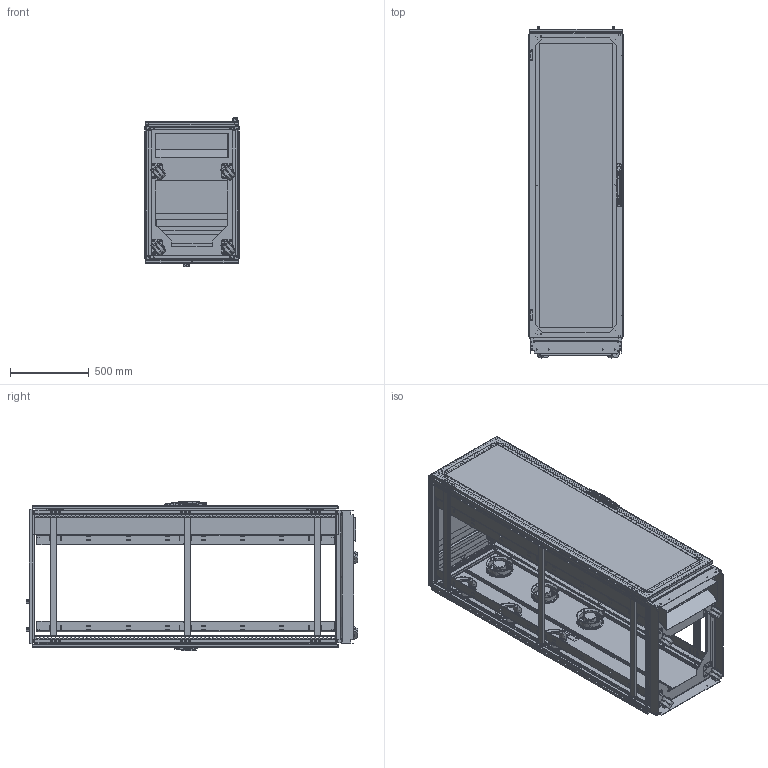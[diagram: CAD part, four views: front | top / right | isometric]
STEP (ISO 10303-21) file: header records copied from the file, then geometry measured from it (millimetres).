
FILE_DESCRIPTION((''),'2;1');
FILE_NAME('D:\scratch\ideas\fdserver_assy_2069.stp', '2009-03-11T10:07:54',('User'),('SDRC'),'I-DEAS Master Series 9','UNIX', 'Yes');
FILE_SCHEMA(('AUTOMOTIVE_DESIGN { 1 0 10303 214 0 1 1 1 }'));
Length unit declared in the file: inch
Products named in the file (73): 15838_15844; assy_frm_2069; frm_f_b_900; frm_upright_2000; frm_side-to-side-600mm; 51218-001; unistrut_datacom_900; 11158148; 60127133; 87566046; 87793742; 60127101; 60100041; Assy_6_inch_fan; fan_6_inch_w/o_pigtails; 87793740; handle_assy; handle; insert_keylock_small_flush; 11458171; 99401225; 87793877; 45129001; 87793688; gskt_1in_600; 45185001; 87796494; assy_caster; 99411235; 11258507; plate_caster_hoffman_std; wheel_caster_hoffman_std; 87794723; 87794727; 87794725; 87417311; 87796488; 87794713; 87794711; 87795190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
Assembly tree (163 placements, depth 5):
  15838_15844
    assy_frm_2069
      frm_f_b_900  x4
      frm_upright_2000  x4
      frm_side-to-side-600mm  x4
      51218-001  x8
      unistrut_datacom_900  x6
    11158148  x6
      60127133
    87566046  x4
    87793742
      60127101  x3
      60100041  x2
      87793742
      Assy_6_inch_fan  x3
        fan_6_inch_w/o_pigtails
    87793740
      Assy_6_inch_fan  x3
        fan_6_inch_w/o_pigtails
      handle_assy
        handle
        insert_keylock_small_flush
        11458171
      87793740
        60127101  x3
        99401225  x2
        87793740
    87793877
      45129001  x4
      87793688
        gskt_1in_600
        87793688
      87793877
        99401225  x4
        60100041
        87793877
        45185001  x4
      87793688
        87793688
        gskt_1in_600
    87796494
      assy_caster  x4
        99411235
        11258507
          plate_caster_hoffman_std
          wheel_caster_hoffman_std
      87796494
        87794723
          87794727
          87794725
        87417311  x4
        60100041
        87796488
    87794713
    87794711  x2
    87795190
      bumper  x2
      60127277  x3
      Screw_M4x8mm_PHTF  x4
      11359496
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Bounding box: 599.2 x 2107.95 x 946.86 mm (x, y, z)
Volume: 18543158.1 mm3; surface area: 17172943.7 mm2
Topology: 182 solids, 182 shells, 17062 faces, 47660 edges, 32049 vertices
Faces by surface type: bspline 17062
Entity records: 222480 total; most frequent: CARTESIAN_POINT 107845, ORIENTED_EDGE 34320, EDGE_CURVE 17160, VERTEX_POINT 11247, EDGE_LOOP 8779, QUASI_UNIFORM_CURVE 8043, FACE_OUTER_BOUND 6211, ADVANCED_FACE 6211
